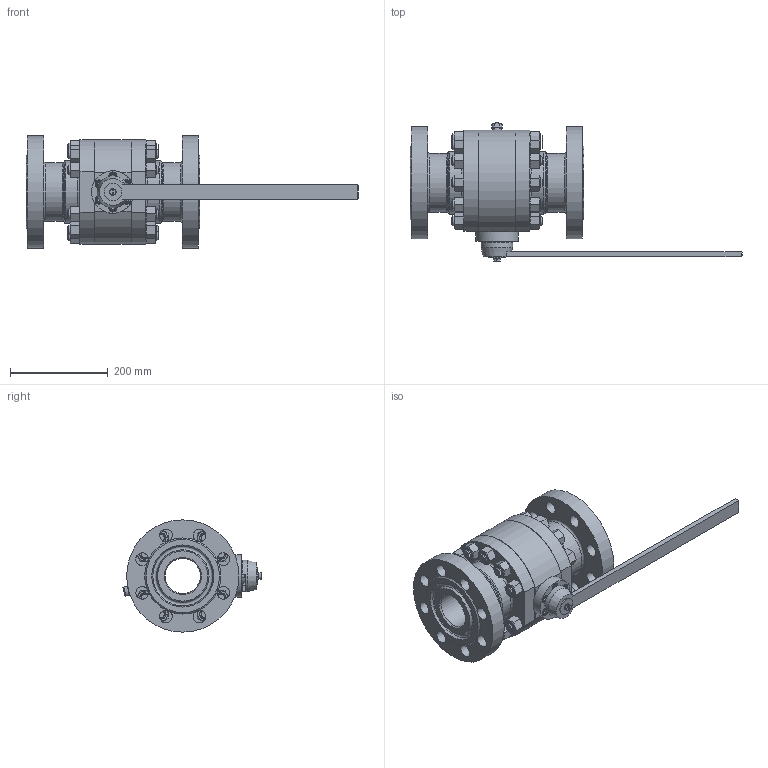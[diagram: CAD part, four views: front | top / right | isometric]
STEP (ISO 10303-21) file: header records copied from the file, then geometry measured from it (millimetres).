
FILE_DESCRIPTION(('STEP AP203'), '1');
FILE_NAME('ZARD 080.080.27.P.stp', '2013-12-06T11:21:49', ('Ñèçîâ À.Í.'), ('ÎÎÎ "ÈÊ Ýíåðïðåä-ßðäîñ"'), 'ASCON STEP Converter 1.3', 'Kompas 3D', '');
FILE_SCHEMA(('CONFIG_CONTROL_DESIGN','SUPPORT_RESOURCE_SCHEMA'));
Length unit declared in the file: millimetre
Products named in the file (1): 259
Bounding box: 680 x 283.22 x 230 mm (x, y, z)
Volume: 7374901.2 mm3; surface area: 825870.9 mm2
Topology: 1 solids, 20 shells, 809 faces, 1814 edges, 1128 vertices
Faces by surface type: plane 445, cone 182, cylinder 172, torus 10
Full cylindrical faces by diameter (mm): 8 x14, 8.2 x1, 8.5 x1, 10 x6, 11 x6, 12.2 x1, 13 x1, 14.422 x1, 16 x6, 17 x6, 17.33 x1, 20 x44, 22 x11, 25 x1, 26 x16, 28.7 x1, 29.8 x1, 30 x1, 31 x1, 36 x1, 40 x1, 40.5 x1, 65 x1, 72 x2, 87 x1, 111 x2, 120 x5, 128 x2, 134 x2, 230 x2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
Entity records: 35418 total; most frequent: CARTESIAN_POINT 17321, DIRECTION 3816, ORIENTED_EDGE 3616, EDGE_CURVE 1808, AXIS2_PLACEMENT_3D 1554, VERTEX_POINT 1128, EDGE_LOOP 970, ADVANCED_FACE 809
